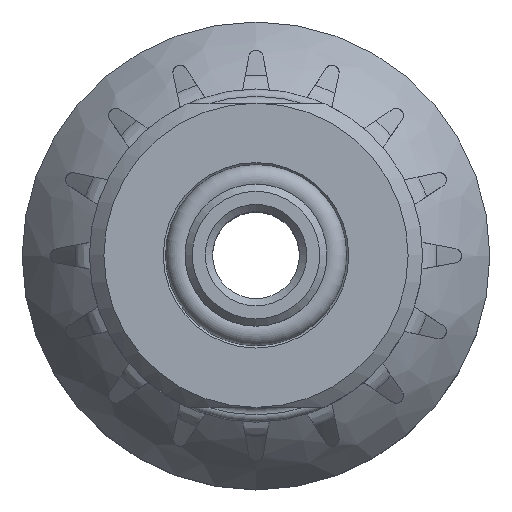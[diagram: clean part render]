
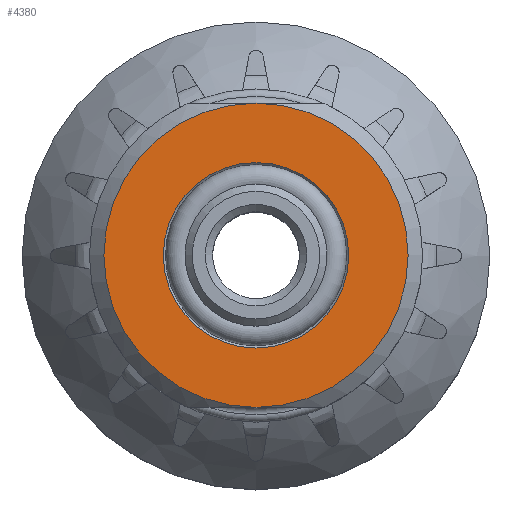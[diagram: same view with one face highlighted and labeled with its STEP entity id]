
A CAD part, top view. The second image highlights one B-rep face of the part: STEP entity #4380.
In plain terms, the highlighted planar face has unit normal (0, 0, 1).
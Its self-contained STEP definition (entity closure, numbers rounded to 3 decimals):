
#4380 = ADVANCED_FACE( '', ( #7110, #7111 ), #7112, .F. );
#7110 = FACE_OUTER_BOUND( '', #8943, .T. );
#7111 = FACE_BOUND( '', #8944, .T. );
#7112 = PLANE( '', #8945 );
#8943 = EDGE_LOOP( '', ( #13543, #13544 ) );
#8944 = EDGE_LOOP( '', ( #13545 ) );
#8945 = AXIS2_PLACEMENT_3D( '', #13546, #13547, #13548 );
#13543 = ORIENTED_EDGE( '', *, *, #20315, .F. );
#13544 = ORIENTED_EDGE( '', *, *, #20284, .F. );
#13545 = ORIENTED_EDGE( '', *, *, #20319, .T. );
#13546 = CARTESIAN_POINT( '', ( -6.4, 0., 3.683 ) );
#13547 = DIRECTION( '', ( 0., 0., -1. ) );
#13548 = DIRECTION( '', ( -1., 0., 0. ) );
#20284 = EDGE_CURVE( '', #22888, #22890, #22891, .T. );
#20315 = EDGE_CURVE( '', #22890, #22888, #22945, .T. );
#20319 = EDGE_CURVE( '', #22949, #22949, #22950, .T. );
#22888 = VERTEX_POINT( '', #28263 );
#22890 = VERTEX_POINT( '', #28272 );
#22891 = CIRCLE( '', #28273, 10.5 );
#22945 = CIRCLE( '', #28373, 10.5 );
#22949 = VERTEX_POINT( '', #28377 );
#22950 = CIRCLE( '', #28378, 6.4 );
#28263 = CARTESIAN_POINT( '', ( 0., -10.5, 3.683 ) );
#28272 = CARTESIAN_POINT( '', ( 0., 10.5, 3.683 ) );
#28273 = AXIS2_PLACEMENT_3D( '', #29362, #29363, #29364 );
#28373 = AXIS2_PLACEMENT_3D( '', #29400, #29401, #29402 );
#28377 = CARTESIAN_POINT( '', ( -6.4, 0., 3.683 ) );
#28378 = AXIS2_PLACEMENT_3D( '', #29412, #29413, #29414 );
#29362 = CARTESIAN_POINT( '', ( 0., 0., 3.683 ) );
#29363 = DIRECTION( '', ( 0., 0., -1. ) );
#29364 = DIRECTION( '', ( -1., 0., 0. ) );
#29400 = CARTESIAN_POINT( '', ( 0., 0., 3.683 ) );
#29401 = DIRECTION( '', ( 0., 0., -1. ) );
#29402 = DIRECTION( '', ( -1., 0., 0. ) );
#29412 = CARTESIAN_POINT( '', ( 0., 0., 3.683 ) );
#29413 = DIRECTION( '', ( 0., 0., -1. ) );
#29414 = DIRECTION( '', ( -1., 0., 0. ) );
